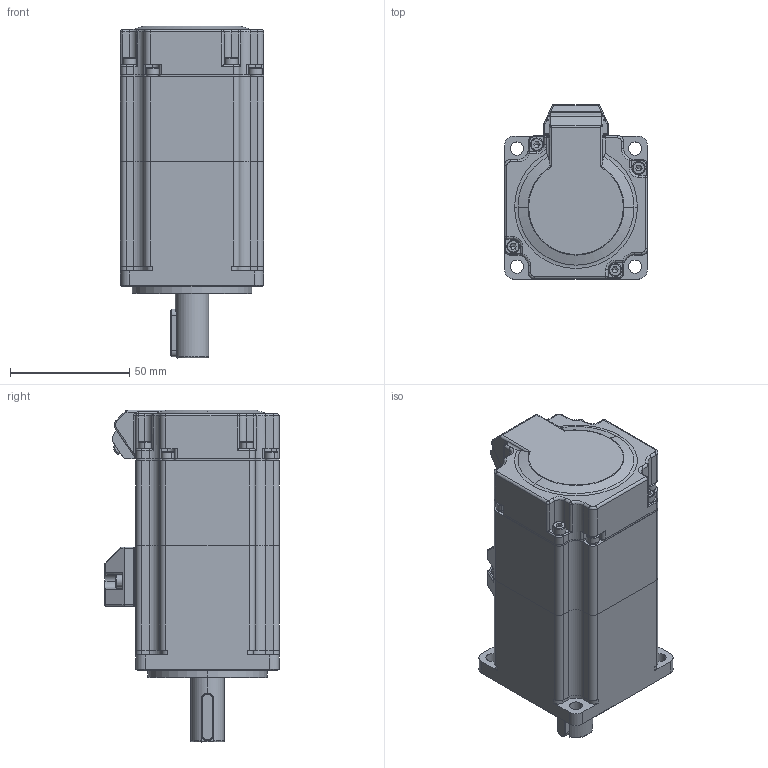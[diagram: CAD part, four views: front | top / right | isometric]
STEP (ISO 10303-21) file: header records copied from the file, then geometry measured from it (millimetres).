
FILE_DESCRIPTION (( 'STEP AP203' ), '1' );
FILE_NAME ('BMR-Z02B06030-´ø±§Õ¢.STEP', '2024-03-23T09:24:03', ( '' ), ( '' ), 'SwSTEP 2.0', 'SolidWorks 2018', '' );
FILE_SCHEMA (( 'CONFIG_CONTROL_DESIGN' ));
Length unit declared in the file: millimetre
Products named in the file (1): BMR-Z02B06030-湍惕掅
Bounding box: 60 x 73 x 139.2 mm (x, y, z)
Volume: 156522.5 mm3; surface area: 92211.9 mm2
Topology: 25 solids, 25 shells, 1253 faces, 3078 edges, 1911 vertices
Faces by surface type: cylinder 520, plane 476, cone 127, torus 104, sphere 18, bspline 8
Entity records: 37537 total; most frequent: CARTESIAN_POINT 7142, DIRECTION 6809, ORIENTED_EDGE 6060, EDGE_CURVE 3030, AXIS2_PLACEMENT_3D 2657, VERTEX_POINT 1911, LINE 1495, VECTOR 1495
